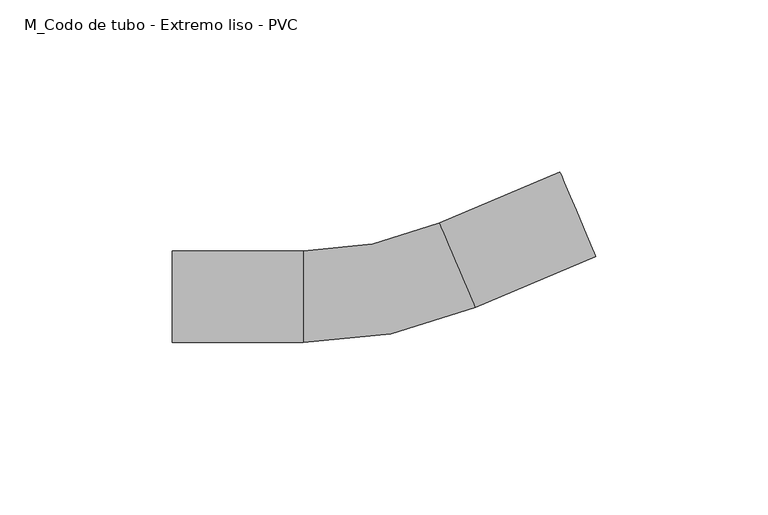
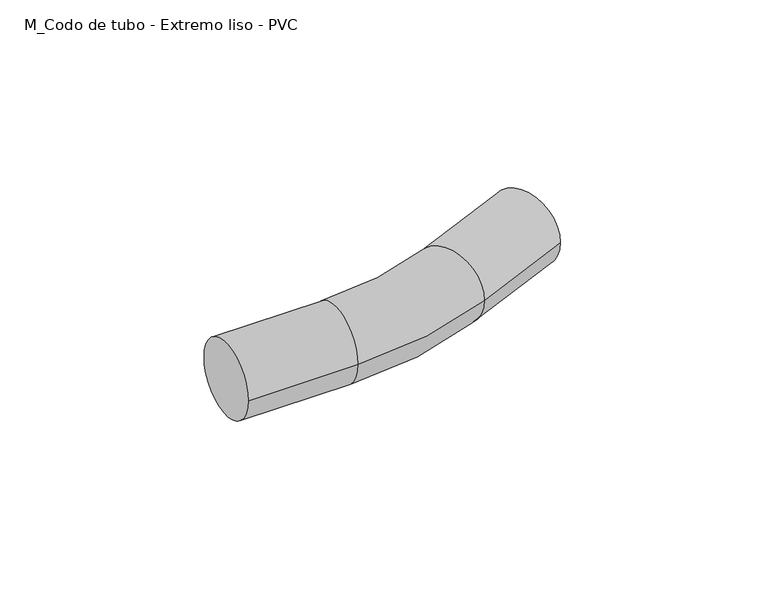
"""IFC4 building model written with IfcOpenShell, lengths in millimetres: cable carrier fitting geometry, M_Codo de tubo - Extremo liso - PVC : CODO ILUMINACION."""

from ifc_helpers import new_model, si_unit, point, frame, origin, place, context, project, spatial, circle_curve, ellipse_curve, trimmed, source, transform, mapped, element, save
from ifc_brep_helpers import plane_surface, cylinder_surface, revolved_surface, advanced_brep


def m_codo_de_tubo_extremo_liso_pvc_b7793a26(model_context):
    return source(origin(), model_context, "Body", "AdvancedBrep", [
        advanced_brep(
        [(-61.3545978, -13.335, 0.0), (-61.3545978, 13.335, 0.0), (-23.2545978, -13.335, 0.0), (-23.2545978, 13.335, 0.0), (16.1955706, 21.3612275, 0.0), (26.6163698, -3.188637, 0.0), (61.6876047, 11.698219, 0.0), (51.2668055, 36.2480835, 0.0)],
        [
            (0, 1, circle_curve(frame((-61.3545978, 0.0, 0.0), z_axis=(-1.0, 0.0, 0.0), x_axis=(0.0, 1.0, 0.0)), 13.335)),
            (1, 0, circle_curve(frame((-61.3545978, 0.0, 0.0), z_axis=(-1.0, 0.0, 0.0), x_axis=(0.0, 1.0, 0.0)), 13.335)),
            (0, 2),
            (2, 3, circle_curve(frame((-23.2545978, 0.0, 0.0), z_axis=(-1.0, 0.0, 0.0), x_axis=(0.0, 1.0, 0.0)), 13.335)),
            (3, 1),
            (3, 2, circle_curve(frame((-23.2545978, 0.0, 0.0), z_axis=(-1.0, 0.0, 0.0), x_axis=(0.0, 1.0, 0.0)), 13.335)),
            (4, 3, circle_curve(frame((-23.2545978, 114.3, 0.0), z_axis=(0.0, 0.0, -1.0), x_axis=(0.0, -1.0, 0.0)), 100.965)),
            (2, 5, circle_curve(frame((-23.2545978, 114.3, 0.0), z_axis=(0.0, 0.0, 1.0), x_axis=(0.0, -1.0, 0.0)), 127.635)),
            (5, 4, circle_curve(frame((21.4059702, 9.0862953, 0.0), z_axis=(-0.9205048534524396, -0.3907311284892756, 0.0), x_axis=(-0.3907311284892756, 0.9205048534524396, 0.0)), 13.335)),
            (4, 5, circle_curve(frame((21.4059702, 9.0862953, 0.0), z_axis=(-0.9205048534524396, -0.39073112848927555, 0.0), x_axis=(-0.39073112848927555, 0.9205048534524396, 0.0)), 13.335)),
            (6, 7, circle_curve(frame((56.4772051, 23.9731512, 0.0), z_axis=(0.9205048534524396, 0.39073112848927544, 0.0), x_axis=(-0.39073112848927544, 0.9205048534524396, 0.0)), 13.335)),
            (7, 6, circle_curve(frame((56.4772051, 23.9731512, 0.0), z_axis=(0.9205048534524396, 0.39073112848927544, 0.0), x_axis=(-0.39073112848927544, 0.9205048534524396, 0.0)), 13.335)),
            (5, 6),
            (7, 4),
        ],
        [
            plane_surface(frame((-61.3545978, 0.0, 0.0), z_axis=(-1.0, 0.0, 0.0), x_axis=(0.0, 0.0, 1.0))),
            cylinder_surface(frame((-61.3545978, 0.0, 0.0), z_axis=(-1.0, 0.0, 0.0), x_axis=(0.0, 1.0, 0.0)), 13.335),
            revolved_surface(trimmed(ellipse_curve(frame((-23.2545978, 0.0, 0.0), z_axis=(-1.0, 0.0, 0.0), x_axis=(0.0, 1.0, 0.0)), 13.335, 13.335), [point((-23.2545978, -13.335, 0.0))], [point((-23.2545978, 13.335, 0.0))], True, "CARTESIAN"), (-23.2545978, 114.3, 0.0), (0.0, 0.0, 1.0)),
            revolved_surface(trimmed(ellipse_curve(frame((-23.2545978, 0.0, 0.0), z_axis=(-1.0, 0.0, 0.0), x_axis=(0.0, 1.0, 0.0)), 13.335, 13.335), [point((-23.2545978, 13.335, 0.0))], [point((-23.2545978, -13.335, 0.0))], True, "CARTESIAN"), (-23.2545978, 114.3, 0.0), (0.0, 0.0, 1.0)),
            plane_surface(frame((56.4772051, 23.9731512, 0.0), z_axis=(0.9205048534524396, 0.39073112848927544, 0.0), x_axis=(0.0, 0.0, 1.0))),
            cylinder_surface(frame((21.4059702, 9.0862953, 0.0), z_axis=(-0.9205048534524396, -0.39073112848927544, 0.0), x_axis=(-0.39073112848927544, 0.9205048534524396, 0.0)), 13.335),
        ],
        [
            (0, [[1, 2]]),
            (1, [[-1, 3, 4, 5]]),
            (1, [[-2, -5, 6, -3]]),
            (2, [[7, -4, 8, 9]]),
            (3, [[-8, -6, -7, 10]]),
            (4, [[11, 12]]),
            (5, [[-9, 13, -12, 14]]),
            (5, [[-10, -14, -11, -13]]),
        ],
    ),
    ])


if __name__ == "__main__":
    model = new_model("IFC4")
    model_context = context("Model", 3, world=origin())
    ifc_project = project(units=[si_unit("LENGTHUNIT", "METRE", prefix="MILLI")], contexts=[model_context])
    site = spatial("IfcSite", under=ifc_project)
    building = spatial("IfcBuilding", under=site)
    placement = place(None, origin())
    m_codo_de_tubo_extremo_liso_pvc_shape = m_codo_de_tubo_extremo_liso_pvc_b7793a26(model_context)
    element("IfcCableCarrierFitting", 1, ObjectType="M_Codo de tubo - Extremo liso - PVC : CODO ILUMINACION", at=placement, inside=building, context=model_context, shape_type="MappedRepresentation", body=[
        mapped(m_codo_de_tubo_extremo_liso_pvc_shape, transform((0.0, 0.0, 0.0), x_axis=(1.0, 0.0, 0.0), y_axis=(0.0, 1.0, 0.0), z_axis=(0.0, 0.0, 1.0))),
    ])
    save(model, "model.ifc")
